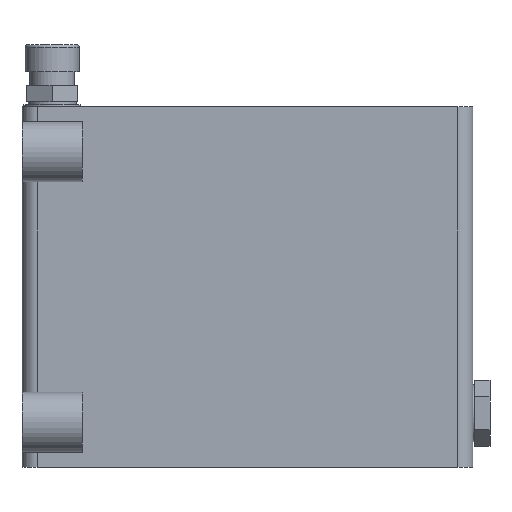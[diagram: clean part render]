
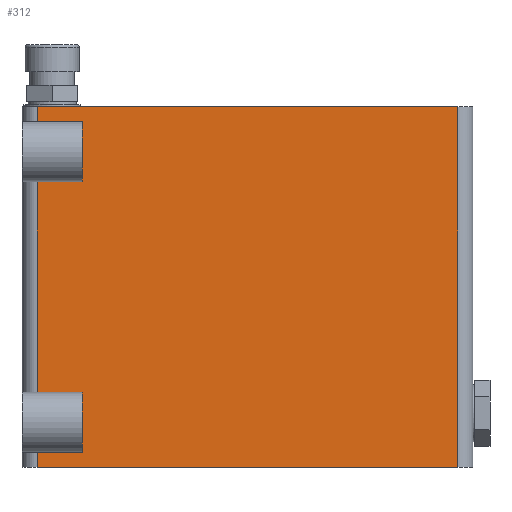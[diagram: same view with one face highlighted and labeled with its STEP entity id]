
A CAD part, left-side view. The second image highlights one B-rep face of the part: STEP entity #312.
In plain terms, the highlighted planar face has unit normal (-1, 0, 0).
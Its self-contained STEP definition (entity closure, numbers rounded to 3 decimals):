
#312 = ADVANCED_FACE( '', ( #566 ), #567, .F. );
#566 = FACE_OUTER_BOUND( '', #899, .T. );
#567 = PLANE( '', #900 );
#899 = EDGE_LOOP( '', ( #1242, #1243, #1244, #1245 ) );
#900 = AXIS2_PLACEMENT_3D( '', #1246, #1247, #1248 );
#1242 = ORIENTED_EDGE( '', *, *, #1912, .T. );
#1243 = ORIENTED_EDGE( '', *, *, #1913, .F. );
#1244 = ORIENTED_EDGE( '', *, *, #1914, .F. );
#1245 = ORIENTED_EDGE( '', *, *, #1915, .T. );
#1246 = CARTESIAN_POINT( '', ( -50., 70., 120. ) );
#1247 = DIRECTION( '', ( 1., 0., 0. ) );
#1248 = DIRECTION( '', ( 0., 1., 0. ) );
#1912 = EDGE_CURVE( '', #2239, #2240, #2241, .T. );
#1913 = EDGE_CURVE( '', #2242, #2240, #2243, .T. );
#1914 = EDGE_CURVE( '', #2244, #2242, #2245, .T. );
#1915 = EDGE_CURVE( '', #2244, #2239, #2246, .T. );
#2239 = VERTEX_POINT( '', #2618 );
#2240 = VERTEX_POINT( '', #2619 );
#2241 = LINE( '', #2620, #2621 );
#2242 = VERTEX_POINT( '', #2622 );
#2243 = LINE( '', #2623, #2624 );
#2244 = VERTEX_POINT( '', #2625 );
#2245 = LINE( '', #2626, #2627 );
#2246 = LINE( '', #2628, #2629 );
#2618 = CARTESIAN_POINT( '', ( -50., 70., 0. ) );
#2619 = CARTESIAN_POINT( '', ( -50., -70., 0. ) );
#2620 = CARTESIAN_POINT( '', ( -50., 70., 0. ) );
#2621 = VECTOR( '', #3097, 1000. );
#2622 = CARTESIAN_POINT( '', ( -50., -70., 120. ) );
#2623 = CARTESIAN_POINT( '', ( -50., -70., 120. ) );
#2624 = VECTOR( '', #3098, 1000. );
#2625 = CARTESIAN_POINT( '', ( -50., 70., 120. ) );
#2626 = CARTESIAN_POINT( '', ( -50., 70., 120. ) );
#2627 = VECTOR( '', #3099, 1000. );
#2628 = CARTESIAN_POINT( '', ( -50., 70., 120. ) );
#2629 = VECTOR( '', #3100, 1000. );
#3097 = DIRECTION( '', ( 0., -1., 0. ) );
#3098 = DIRECTION( '', ( 0., 0., -1. ) );
#3099 = DIRECTION( '', ( 0., -1., 0. ) );
#3100 = DIRECTION( '', ( 0., 0., -1. ) );
